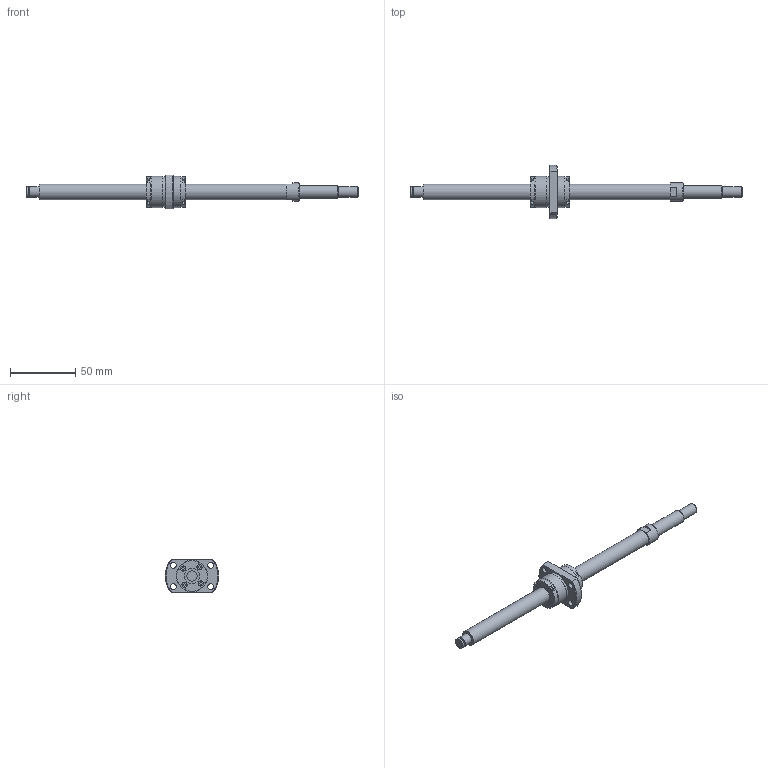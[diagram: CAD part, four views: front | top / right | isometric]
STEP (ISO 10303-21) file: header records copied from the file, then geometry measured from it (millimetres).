
FILE_DESCRIPTION(/* description */ ('STEP AP214'),/* implementation_level */ '2;1');
FILE_NAME(/* name */ 'SRT1210-186R255C7B0X(82.5Processing)',/* time_stamp */ '2026-08-06T15:13:19+02:00',/* author */ ('License CC BY-ND 4.0'),/* organization */ ('CADENAS'),/* preprocessor_version */ 'ST-DEVELOPER v20',/* originating_system */ 'PARTsolutions',/* authorisation */ ' ');
FILE_SCHEMA (('AUTOMOTIVE_DESIGN {1 0 10303 214 3 1 1}'));
Length unit declared in the file: millimetre
Products named in the file (3): SRT1210-186R255C7B0X(82.5Processing); SRT1210-186R270BCt7Processing81Shaft; SRT1210Nut
Assembly tree (2 placements, depth 2):
  SRT1210-186R255C7B0X(82.5Processing)
    SRT1210-186R270BCt7Processing81Shaft
    SRT1210Nut
Bounding box: 255 x 41 x 26 mm (x, y, z)
Volume: 39237.7 mm3; surface area: 15362.3 mm2
Topology: 2 solids, 2 shells, 155 faces, 368 edges, 243 vertices
Faces by surface type: plane 110, cylinder 35, cone 9, torus 1
Full cylindrical faces by diameter (mm): 3.8 x8, 4.5 x4, 7.6 x1, 8 x3, 10 x1, 12 x2, 14 x1, 23.5 x3, 24 x2
Entity records: 4367 total; most frequent: CARTESIAN_POINT 752, DIRECTION 738, ORIENTED_EDGE 664, EDGE_CURVE 332, AXIS2_PLACEMENT_3D 256, VERTEX_POINT 238, LINE 226, VECTOR 226
